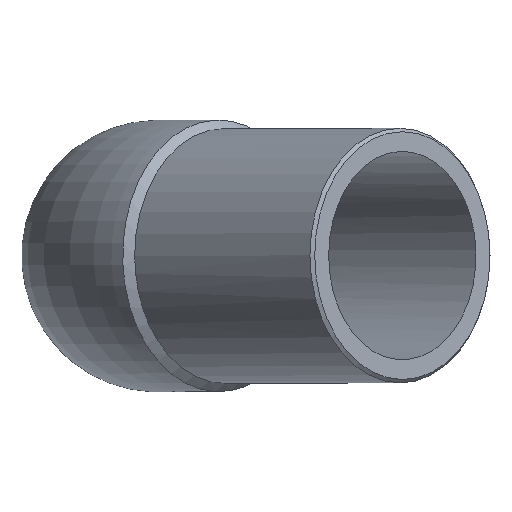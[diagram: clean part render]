
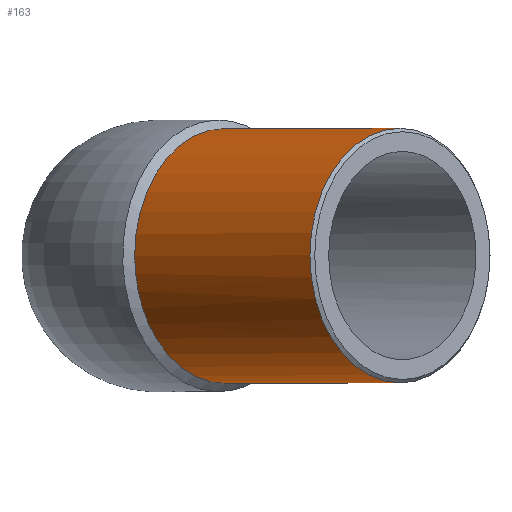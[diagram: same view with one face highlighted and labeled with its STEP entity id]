
A CAD part, top view. The second image highlights one B-rep face of the part: STEP entity #163.
In plain terms, the highlighted cylindrical face has radius 37.5 mm (diameter 75 mm), a full revolution.
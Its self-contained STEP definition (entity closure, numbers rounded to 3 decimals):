
#25=CYLINDRICAL_SURFACE('',#189,37.5);
#37=ORIENTED_EDGE('',*,*,#71,.T.);
#38=ORIENTED_EDGE('',*,*,#69,.F.);
#69=EDGE_CURVE('',#86,#86,#102,.T.);
#71=EDGE_CURVE('',#88,#88,#103,.T.);
#86=VERTEX_POINT('',#261);
#88=VERTEX_POINT('',#321);
#102=CIRCLE('',#188,37.5);
#103=CIRCLE('',#190,37.5);
#114=EDGE_LOOP('',(#37));
#115=EDGE_LOOP('',(#38));
#137=FACE_BOUND('',#114,.T.);
#138=FACE_BOUND('',#115,.T.);
#163=ADVANCED_FACE('',(#137,#138),#25,.T.);
#188=AXIS2_PLACEMENT_3D('',#260,#214,#215);
#189=AXIS2_PLACEMENT_3D('',#319,#216,#217);
#190=AXIS2_PLACEMENT_3D('',#320,#218,#219);
#214=DIRECTION('',(-0.707,0.,-0.707));
#215=DIRECTION('',(-0.707,0.,0.707));
#216=DIRECTION('',(0.707,0.,0.707));
#217=DIRECTION('',(-0.707,0.,0.707));
#218=DIRECTION('',(-0.707,0.,-0.707));
#219=DIRECTION('',(-0.707,0.,0.707));
#260=CARTESIAN_POINT('',(19.799,0.,19.799));
#261=CARTESIAN_POINT('',(-6.718,0.,46.315));
#319=CARTESIAN_POINT('',(72.125,0.,72.125));
#320=CARTESIAN_POINT('',(71.418,0.,71.418));
#321=CARTESIAN_POINT('',(44.901,0.,97.934));
